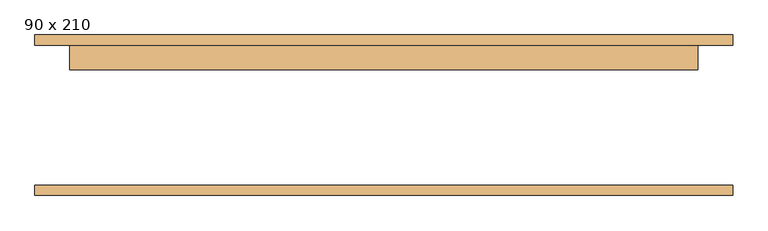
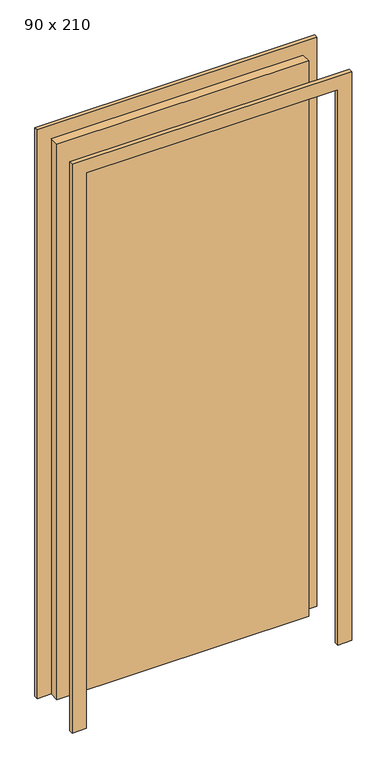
"""IFC4 building model written with IfcOpenShell, lengths in millimetres: door geometry, M_Descarga simples : 90 x 210."""

from ifc_helpers import new_model, si_unit, frame, origin, origin_with_axes, place, context, project, spatial, polyline, outline, extrude, source, transform, mapped, element, save


def door_90_x_210_2c83007d(model_context):
    return source(origin(), model_context, "Body", "SweptSolid", [
        extrude(outline(polyline([(2150.0, -500.0), (0.0, -500.0), (0.0, -450.0), (2100.0, -450.0), (2100.0, 450.0), (0.0, 450.0), (0.0, 500.0), (2150.0, 500.0), (2150.0, -500.0)])), frame((0.0, 100.0, 0.0), z_axis=(0.0, 1.0, 0.0), x_axis=(0.0, 0.0, 1.0)), (0.0, 0.0, 1.0), 15.0),
        extrude(outline(polyline([(2150.0, 500.0), (2150.0, -500.0), (0.0, -500.0), (0.0, -450.0), (2100.0, -450.0), (2100.0, 450.0), (0.0, 450.0), (0.0, 500.0), (2150.0, 500.0)])), frame((0.0, -115.0, 0.0), z_axis=(0.0, 1.0, 0.0), x_axis=(0.0, 0.0, 1.0)), (0.0, 0.0, 1.0), 15.0),
        extrude(outline(polyline([(450.0, 65.0), (-450.0, 65.0), (-450.0, 100.0), (450.0, 100.0), (450.0, 65.0)])), origin_with_axes(), (0.0, 0.0, 1.0), 2100.0),
    ])


if __name__ == "__main__":
    model = new_model("IFC4")
    model_context = context("Model", 3, world=origin())
    ifc_project = project(units=[si_unit("LENGTHUNIT", "METRE", prefix="MILLI")], contexts=[model_context])
    site = spatial("IfcSite", under=ifc_project)
    building = spatial("IfcBuilding", under=site)
    placement = place(None, origin())
    door_90_x_210_shape = door_90_x_210_2c83007d(model_context)
    element("IfcDoor", 1, ObjectType="M_Descarga simples : 90 x 210", at=placement, inside=building, context=model_context, shape_type="MappedRepresentation", body=[
        mapped(door_90_x_210_shape, transform((0.0, 0.0, 0.0), x_axis=(1.0, 0.0, 0.0), y_axis=(0.0, 1.0, 0.0), z_axis=(0.0, 0.0, 1.0))),
    ])
    save(model, "model.ifc")
